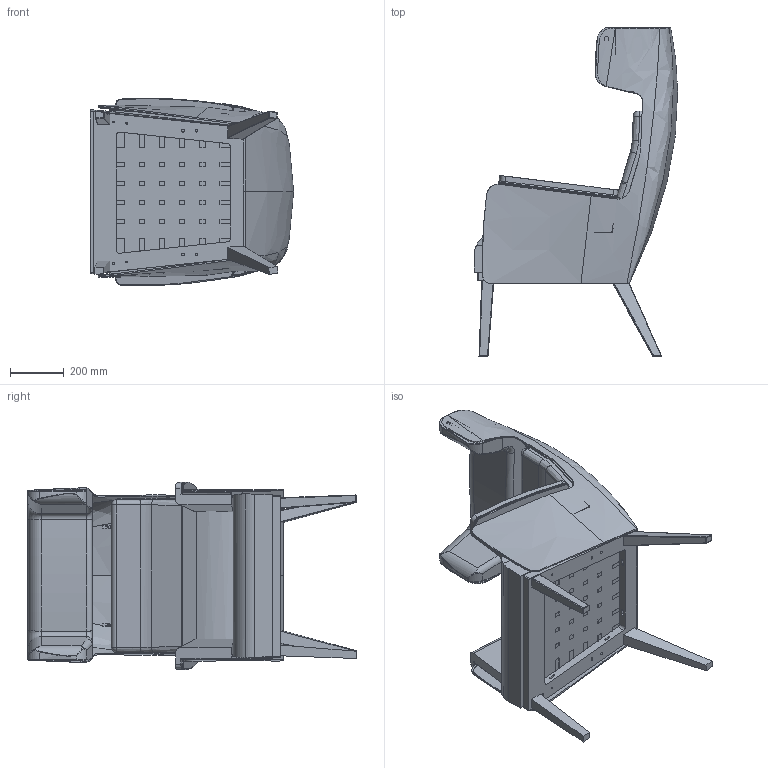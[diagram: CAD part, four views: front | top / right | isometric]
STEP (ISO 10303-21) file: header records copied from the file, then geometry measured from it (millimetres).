
FILE_DESCRIPTION(('CATIA V5 STEP Exchange','CAx-IF Rec.Pracs.--- Model Styling and Organization---1.4--- 2014-01-23'),'2;1');
FILE_NAME('C:\Users\Kutsm\Desktop\WING_1_high\WING_WING.stp','2021-01-14T11:16:18+00:00',('none'),('none'),'CATIA Version 5-6 Release 2018 SP3 HF7','CATIA V5 STEP AP214','none');
FILE_SCHEMA(('AUTOMOTIVE_DESIGN { 1 0 10303 214 1 1 1 1 }'));
Length unit declared in the file: millimetre
Products named in the file (1): WING-S1-001-c_AllCATPart
Bounding box: 754.57 x 1219.12 x 695.57 mm (x, y, z)
Volume: 114626171 mm3; surface area: 8704985.3 mm2
Topology: 26 solids, 26 shells, 938 faces, 2871 edges, 1969 vertices
Faces by surface type: plane 439, cylinder 309, bspline 99, cone 48, torus 22, sphere 21
Entity records: 37689 total; most frequent: CARTESIAN_POINT 14995, ORIENTED_EDGE 5676, DIRECTION 3045, EDGE_CURVE 2838, VERTEX_POINT 1964, VECTOR 1353, LINE 1353, AXIS2_PLACEMENT_3D 1129
